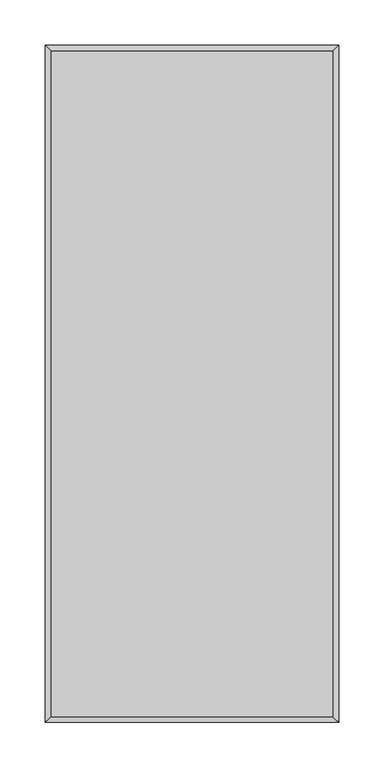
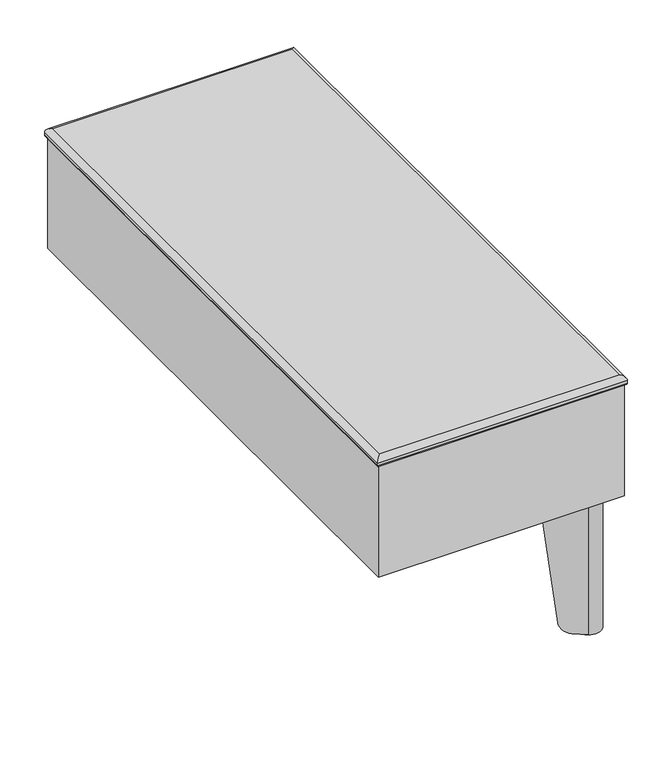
"""IFC4 building model written with IfcOpenShell, lengths in millimetres: furniture geometry, Stance_HC-Flora-Table_Straight : FAT132914E-S."""

from ifc_helpers import new_model, si_unit, point, frame, frame_2d, origin, origin_with_axes, place, context, project, spatial, polyline, circle_curve, ellipse_curve, trimmed, segment, composite_curve, outline, extrude, source, transform, mapped, element, save
from ifc_brep_helpers import plane_surface, cylinder_surface, revolved_surface, advanced_brep


def furniture_b870da70(model_context):
    return source(origin(), model_context, "Body", "SolidModel", [
        advanced_brep(
        [(274.3401042, -102.8613619, 193.6877233), (306.2642107, -57.26919, 193.6877233), (285.6391871, -36.6441664, 193.6877233), (240.0470178, -68.568271, 193.6877233), (241.8906556, -71.2012484, 193.6877233), (287.4828248, -39.2771437, 193.6877233), (303.6312333, -55.4255523, 193.6877233), (271.7071268, -101.0177242, 193.6877233), (274.3401042, -102.8613619, 189.1419595), (303.6312333, -55.4255523, 3.1876992), (293.5105238, -69.8793673, 3.1876992), (284.3334277, -82.9855678, 17.1280233), (287.4828248, -39.2771437, 3.1876992), (259.9228092, -58.5749494, 17.1280233), (273.0290098, -49.3978533, 3.1876992), (240.0470178, -68.568271, 189.1419334), (285.6391871, -36.6441664, 3.1876992), (270.7211121, -47.0899556, 3.1876992), (257.6149115, -56.2670517, 17.1280233), (306.2642107, -57.26919, 3.1876992), (286.6413254, -85.2934656, 17.1280233), (295.8184215, -72.187265, 3.1876992)],
        [
            (0, 1),
            (1, 2, circle_curve(frame((294.1333442, -48.7750329, 193.6877233), z_axis=(0.0, 0.0, 1.0), x_axis=(-1.0, 0.0, 0.0)), 14.8090724)),
            (2, 3),
            (3, 4),
            (4, 5),
            (5, 6, circle_curve(frame((294.1333442, -48.7750329, 193.6877233), z_axis=(0.0, 0.0, -1.0), x_axis=(-1.0, 0.0, 0.0)), 11.5947965)),
            (6, 7),
            (7, 0),
            (7, 8),
            (8, 0),
            (6, 9),
            (9, 10),
            (10, 11, ellipse_curve(frame((293.5105238, -69.8793673, 19.0626992), z_axis=(-0.8191509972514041, 0.5735779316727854, 0.0), x_axis=(-0.5735779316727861, -0.8191509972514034, 0.0)), 16.1198923, 15.875)),
            (11, 7),
            (5, 12),
            (12, 9, circle_curve(frame((294.1333442, -48.7750329, 3.1876992), z_axis=(0.0, 0.0, -1.0), x_axis=(-1.0, 0.0, 0.0)), 11.5947965)),
            (4, 13),
            (13, 14, ellipse_curve(frame((273.0290098, -49.3978533, 19.0626992), z_axis=(0.5735779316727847, -0.8191509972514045, 0.0), x_axis=(0.8191509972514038, 0.5735779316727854, 0.0)), 16.1198923, 15.875)),
            (14, 12),
            (3, 15),
            (15, 4),
            (2, 16),
            (16, 17),
            (17, 18, ellipse_curve(frame((270.7211121, -47.0899556, 19.0626992), z_axis=(-0.5735779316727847, 0.8191509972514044, 0.0), x_axis=(0.8191509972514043, 0.573577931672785, 0.0)), 16.1198923, 15.875)),
            (18, 15),
            (1, 19),
            (19, 16, circle_curve(frame((294.1333442, -48.7750329, 3.1876992), z_axis=(0.0, 0.0, 1.0), x_axis=(-1.0, 0.0, 0.0)), 14.8090724)),
            (8, 20),
            (20, 21, ellipse_curve(frame((295.8184215, -72.187265, 19.0626992), z_axis=(0.8191509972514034, -0.5735779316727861, 0.0), x_axis=(-0.5735779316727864, -0.8191509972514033, 0.0)), 16.1198923, 15.875)),
            (21, 19),
            (18, 13),
            (11, 20),
            (21, 10),
            (14, 17),
        ],
        [
            plane_surface(frame((271.7071268, -101.0177242, 193.6877233), z_axis=(0.0, 0.0, 1.0000000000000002), x_axis=(-0.8191509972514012, 0.5735779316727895, 0.0))),
            plane_surface(frame((274.3401042, -102.8613619, 193.6877233), z_axis=(-0.5735779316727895, -0.8191509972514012, 0.0), x_axis=(0.0, 0.0, -1.0))),
            plane_surface(frame((271.7071268, -101.0177242, 193.6877233), z_axis=(-0.8191509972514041, 0.5735779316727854, 0.0), x_axis=(0.0, 0.0, -1.0))),
            revolved_surface(polyline([(282.53854770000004, -48.7750329, 3.1876992), (282.53854770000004, -48.7750329, 193.6877233)]), (294.1333442, -48.7750329, 0.0), (0.0, 0.0, -1.0)),
            plane_surface(frame((287.4828248, -39.2771437, 193.6877233), z_axis=(0.5735779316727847, -0.8191509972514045, 0.0), x_axis=(0.0, 0.0, -1.0))),
            plane_surface(frame((241.8906556, -71.2012484, 193.6877233), z_axis=(-0.8191509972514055, -0.5735779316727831, 0.0), x_axis=(0.0, 0.0, -1.0))),
            plane_surface(frame((240.0470178, -68.568271, 193.6877233), z_axis=(-0.5735779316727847, 0.8191509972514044, 0.0), x_axis=(0.0, 0.0, -1.0))),
            cylinder_surface(frame((294.1333442, -48.7750329, 0.0), z_axis=(0.0, 0.0, 1.0), x_axis=(-1.0, 0.0, 0.0)), 14.8090724),
            plane_surface(frame((306.2642107, -57.26919, 193.6877233), z_axis=(0.8191509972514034, -0.5735779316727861, 0.0), x_axis=(0.0, 0.0, -1.0))),
            plane_surface(frame((251.7311084, -50.3832485, 17.1280233), z_axis=(-0.7018361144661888, -0.7018361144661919, -0.12186934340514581), x_axis=(0.7071067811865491, -0.707106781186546, 0.0))),
            plane_surface(frame((284.2214639, -17.8928931, 3.1876992), z_axis=(0.0, 0.0, -1.0), x_axis=(0.707106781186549, -0.707106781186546, 0.0))),
            cylinder_surface(frame((303.6583998, -80.0272433, 19.0626992), z_axis=(0.7071067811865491, -0.707106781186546, 0.0), x_axis=(-0.707106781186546, -0.7071067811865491, 0.0)), 15.875),
        ],
        [
            (0, [[1, 2, 3, 4, 5, 6, 7, 8]]),
            (1, [[9, 10, -8]]),
            (2, [[11, 12, 13, 14, -7]]),
            (3, [[15, 16, -11, -6]]),
            (4, [[17, 18, 19, -15, -5]]),
            (5, [[20, 21, -4]]),
            (6, [[22, 23, 24, 25, -20, -3]]),
            (7, [[26, 27, -22, -2]]),
            (8, [[-10, 28, 29, 30, -26, -1]]),
            (9, [[-17, -21, -25, 31]]),
            (9, [[-28, -9, -14, 32]]),
            (10, [[-23, -27, -30, 33, -12, -16, -19, 34]]),
            (11, [[-13, -33, -29, -32]]),
            (11, [[-24, -34, -18, -31]]),
        ],
    ),
        extrude(outline(composite_curve([segment(trimmed(circle_curve(frame_2d((292.1, -50.8)), 11.1125), [point((303.2125, -50.8))], [point((280.9875, -50.8))], False, "CARTESIAN"), True, "CONTINUOUS"), segment(trimmed(circle_curve(frame_2d((292.1, -50.8)), 11.1125), [point((280.9875, -50.8))], [point((303.2125, -50.8))], False, "CARTESIAN"), True, "CONTINUOUS")], self_intersect=False)), origin_with_axes(), (0.0, 0.0, 1.0), 3.175),
        extrude(outline(composite_curve([segment(trimmed(circle_curve(frame_2d((295.4524523, -47.4559239)), 15.8749964), [point((294.3450687, -31.6195983))], [point((311.288778, -48.5633073))], False, "CARTESIAN"), True, "CONTINUOUS"), segment(polyline([(311.288778, -48.5633073), (304.2918062, -148.6247029), (274.4414324, -178.4750713), (190.4983323, -152.4100523), (164.4332978, -68.4669439), (194.2836699, -38.6165718), (294.3450687, -31.6195983)]), True, "CONTINUOUS")], self_intersect=False)), frame((0.0, 0.0, 193.6877233), z_axis=(0.0, 0.0, 1.0), x_axis=(1.0, 0.0, 0.0)), (0.0, 0.0, 1.0), 4.7751809),
        advanced_brep(
        [(274.3401042, -659.1386381, 193.6877233), (271.7071268, -660.9822758, 193.6877233), (303.6312333, -706.5744477, 193.6877233), (287.4828248, -722.7228563, 193.6877233), (241.8906556, -690.7987516, 193.6877233), (240.0470178, -693.431729, 193.6877233), (285.6391871, -725.3558336, 193.6877233), (306.2642107, -704.73081, 193.6877233), (274.3401042, -659.1386381, 189.1419595), (284.3334277, -679.0144322, 17.1280233), (293.5105238, -692.1206327, 3.1876992), (303.6312333, -706.5744477, 3.1876992), (287.4828248, -722.7228563, 3.1876992), (273.0290098, -712.6021467, 3.1876992), (259.9228092, -703.4250506, 17.1280233), (240.0470178, -693.431729, 189.1419334), (257.6149115, -705.7329483, 17.1280233), (270.7211121, -714.9100444, 3.1876992), (285.6391871, -725.3558336, 3.1876992), (306.2642107, -704.73081, 3.1876992), (295.8184215, -689.812735, 3.1876992), (286.6413254, -676.7065344, 17.1280233)],
        [
            (0, 1),
            (1, 2),
            (2, 3, circle_curve(frame((294.1333442, -713.2249671, 193.6877233), z_axis=(0.0, 0.0, -1.0), x_axis=(-1.0, 0.0, 0.0)), 11.5947965)),
            (3, 4),
            (4, 5),
            (5, 6),
            (6, 7, circle_curve(frame((294.1333442, -713.2249671, 193.6877233), z_axis=(0.0, 0.0, 1.0), x_axis=(-1.0, 0.0, 0.0)), 14.8090724)),
            (7, 0),
            (0, 8),
            (8, 1),
            (1, 9),
            (9, 10, ellipse_curve(frame((293.5105238, -692.1206327, 19.0626992), z_axis=(-0.8191509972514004, -0.5735779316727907, 0.0), x_axis=(-0.5735779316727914, 0.8191509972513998, 0.0)), 16.1198923, 15.875)),
            (10, 11),
            (11, 2),
            (11, 12, circle_curve(frame((294.1333442, -713.2249671, 3.1876992), z_axis=(0.0, 0.0, -1.0), x_axis=(-1.0, 0.0, 0.0)), 11.5947965)),
            (12, 3),
            (12, 13),
            (13, 14, ellipse_curve(frame((273.0290098, -712.6021467, 19.0626992), z_axis=(0.5735779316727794, 0.8191509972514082, 0.0), x_axis=(0.8191509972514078, -0.5735779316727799, 0.0)), 16.1198923, 15.875)),
            (14, 4),
            (4, 15),
            (15, 5),
            (15, 16),
            (16, 17, ellipse_curve(frame((270.7211121, -714.9100444, 19.0626992), z_axis=(-0.5735779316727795, -0.8191509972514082, 0.0), x_axis=(0.8191509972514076, -0.5735779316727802, 0.0)), 16.1198923, 15.875)),
            (17, 18),
            (18, 6),
            (18, 19, circle_curve(frame((294.1333442, -713.2249671, 3.1876992), z_axis=(0.0, 0.0, 1.0), x_axis=(-1.0, 0.0, 0.0)), 14.8090724)),
            (19, 7),
            (19, 20),
            (20, 21, ellipse_curve(frame((295.8184215, -689.812735, 19.0626992), z_axis=(0.8191509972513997, 0.5735779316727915, 0.0), x_axis=(-0.573577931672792, 0.8191509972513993, 0.0)), 16.1198923, 15.875)),
            (21, 8),
            (14, 16),
            (21, 9),
            (17, 13),
            (10, 20),
        ],
        [
            plane_surface(frame((271.7071268, -660.9822758, 193.6877233), z_axis=(0.0, 0.0, 0.9999999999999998), x_axis=(-0.8191509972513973, -0.5735779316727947, 0.0))),
            plane_surface(frame((274.3401042, -659.1386381, 193.6877233), z_axis=(-0.5735779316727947, 0.8191509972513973, 0.0), x_axis=(0.0, 0.0, -1.0))),
            plane_surface(frame((271.7071268, -660.9822758, 193.6877233), z_axis=(-0.8191509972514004, -0.5735779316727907, 0.0), x_axis=(0.0, 0.0, -1.0))),
            revolved_surface(polyline([(282.53854770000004, -713.2249671, 3.1876992), (282.53854770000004, -713.2249671, 193.6877233)]), (294.1333442, -713.2249671, 0.0), (0.0, 0.0, -1.0)),
            plane_surface(frame((287.4828248, -722.7228563, 193.6877233), z_axis=(0.5735779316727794, 0.8191509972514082, 0.0), x_axis=(0.0, 0.0, -1.0))),
            plane_surface(frame((241.8906556, -690.7987516, 193.6877233), z_axis=(-0.8191509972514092, 0.5735779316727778, 0.0), x_axis=(0.0, 0.0, -1.0))),
            plane_surface(frame((240.0470178, -693.431729, 193.6877233), z_axis=(-0.5735779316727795, -0.8191509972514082, 0.0), x_axis=(0.0, 0.0, -1.0))),
            cylinder_surface(frame((294.1333442, -713.2249671, 0.0), z_axis=(0.0, 0.0, 1.0), x_axis=(-1.0, 0.0, 0.0)), 14.8090724),
            plane_surface(frame((306.2642107, -704.73081, 193.6877233), z_axis=(0.8191509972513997, 0.5735779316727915, 0.0), x_axis=(0.0, 0.0, -1.0))),
            plane_surface(frame((251.7311084, -711.6167515, 17.1280233), z_axis=(-0.7018361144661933, 0.7018361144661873, -0.12186934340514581), x_axis=(0.7071067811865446, 0.7071067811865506, 0.0))),
            plane_surface(frame((284.2214639, -744.1071069, 3.1876992), z_axis=(0.0, 0.0, -1.0), x_axis=(0.7071067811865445, 0.7071067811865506, 0.0))),
            cylinder_surface(frame((303.6583998, -681.9727567, 19.0626992), z_axis=(0.7071067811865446, 0.7071067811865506, 0.0), x_axis=(-0.7071067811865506, 0.7071067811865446, 0.0)), 15.875),
        ],
        [
            (0, [[1, 2, 3, 4, 5, 6, 7, 8]]),
            (1, [[-1, 9, 10]]),
            (2, [[-2, 11, 12, 13, 14]]),
            (3, [[-3, -14, 15, 16]]),
            (4, [[-4, -16, 17, 18, 19]]),
            (5, [[-5, 20, 21]]),
            (6, [[-6, -21, 22, 23, 24, 25]]),
            (7, [[-7, -25, 26, 27]]),
            (8, [[-8, -27, 28, 29, 30, -9]]),
            (9, [[31, -22, -20, -19]]),
            (9, [[32, -11, -10, -30]]),
            (10, [[33, -17, -15, -13, 34, -28, -26, -24]]),
            (11, [[-31, -18, -33, -23]]),
            (11, [[-32, -29, -34, -12]]),
        ],
    ),
        extrude(outline(composite_curve([segment(trimmed(circle_curve(frame_2d((292.1, -711.2)), 11.1125), [point((303.2125, -711.2))], [point((280.9875, -711.2))], False, "CARTESIAN"), True, "CONTINUOUS"), segment(trimmed(circle_curve(frame_2d((292.1, -711.2)), 11.1125), [point((280.9875, -711.2))], [point((303.2125, -711.2))], False, "CARTESIAN"), True, "CONTINUOUS")], self_intersect=False)), origin_with_axes(), (0.0, 0.0, 1.0), 3.175),
        extrude(outline(composite_curve([segment(polyline([(294.3450687, -730.3804017), (194.2836699, -723.3834282), (164.4332978, -693.5330561), (190.4983323, -609.5899477), (274.4414324, -583.5249287), (304.2918062, -613.3752971), (311.288778, -713.4366927)]), True, "CONTINUOUS"), segment(trimmed(circle_curve(frame_2d((295.4524523, -714.5440761)), 15.8749964), [point((311.288778, -713.4366927))], [point((294.3450687, -730.3804017))], False, "CARTESIAN"), True, "CONTINUOUS")], self_intersect=False)), frame((0.0, 0.0, 193.6877233), z_axis=(0.0, 0.0, 1.0), x_axis=(1.0, 0.0, 0.0)), (0.0, 0.0, 1.0), 4.7751809),
        advanced_brep(
        [(313.5376045, -746.9251045, 361.2210174), (313.5376045, -15.0748955, 361.2210174), (3.9623955, -15.0748955, 361.2210174), (3.9623955, -746.9251045, 361.2210174), (318.087372, -10.525128, 349.249991), (318.087372, -751.474872, 349.249991), (-0.587372, -751.474872, 349.249991), (-0.587372, -10.525128, 349.249991), (319.8876045, -8.7248955, 354.888882), (319.8876045, -753.2751045, 354.888882), (319.8876045, -753.2751045, 350.9190376), (319.8876045, -8.7248955, 350.9190376), (-2.3876045, -753.2751045, 354.888882), (-2.3876045, -753.2751045, 350.9190376), (-2.3876045, -8.7248955, 354.888882), (-2.3876045, -8.7248955, 350.9190376)],
        [
            (0, 1),
            (1, 2),
            (2, 3),
            (3, 0),
            (4, 5),
            (5, 6),
            (6, 7),
            (7, 4),
            (8, 1, ellipse_curve(frame((313.5376045, -15.0748955, 354.8709922), z_axis=(0.7071067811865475, -0.7071067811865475, 0.0), x_axis=(0.7071067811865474, 0.7071067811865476, 0.0)), 8.9802918, 6.3500252)),
            (0, 9, ellipse_curve(frame((313.5376045, -746.9251045, 354.8709922), z_axis=(0.7071067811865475, 0.7071067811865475, 0.0), x_axis=(-0.7071067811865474, 0.7071067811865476, 0.0)), 8.9802918, 6.3500252)),
            (9, 8),
            (9, 10),
            (10, 11),
            (11, 8),
            (10, 5, ellipse_curve(frame((318.2137781, -751.6012781, 350.9190376), z_axis=(0.7071067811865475, 0.7071067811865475, 0.0), x_axis=(-0.7071067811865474, 0.7071067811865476, 0.0)), 2.3671481, 1.6738265)),
            (4, 11, ellipse_curve(frame((318.2137781, -10.3987219, 350.9190376), z_axis=(0.7071067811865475, -0.7071067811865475, 0.0), x_axis=(0.7071067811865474, 0.7071067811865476, 0.0)), 2.3671481, 1.6738265)),
            (3, 12, ellipse_curve(frame((3.9623955, -746.9251045, 354.8709922), z_axis=(0.7071067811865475, -0.7071067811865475, 0.0), x_axis=(0.7071067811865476, 0.7071067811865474, 0.0)), 8.9802918, 6.3500252)),
            (12, 9),
            (12, 13),
            (13, 10),
            (13, 6, ellipse_curve(frame((-0.7137781, -751.6012781, 350.9190376), z_axis=(0.7071067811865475, -0.7071067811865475, 0.0), x_axis=(0.7071067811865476, 0.7071067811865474, 0.0)), 2.3671481, 1.6738265)),
            (2, 14, ellipse_curve(frame((3.9623955, -15.0748955, 354.8709922), z_axis=(-0.7071067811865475, -0.7071067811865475, 0.0), x_axis=(0.7071067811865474, -0.7071067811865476, 0.0)), 8.9802918, 6.3500252)),
            (14, 12),
            (14, 15),
            (15, 13),
            (15, 7, ellipse_curve(frame((-0.7137781, -10.3987219, 350.9190376), z_axis=(-0.7071067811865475, -0.7071067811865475, 0.0), x_axis=(0.7071067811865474, -0.7071067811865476, 0.0)), 2.3671481, 1.6738265)),
            (8, 14),
            (11, 15),
        ],
        [
            plane_surface(frame((3.9623955, -15.0748955, 361.2210174), z_axis=(0.0, 0.0, 1.0), x_axis=(0.0, -1.0, 0.0))),
            plane_surface(frame((3.9623955, -15.0748955, 349.249991), z_axis=(0.0, 0.0, -1.0), x_axis=(0.0, 1.0, 0.0))),
            cylinder_surface(frame((313.5376045, -11.1125, 354.8709922), z_axis=(0.0, 1.0, 0.0), x_axis=(1.0, 0.0, 0.0)), 6.3500252),
            plane_surface(frame((319.8876045, -8.7248955, 354.888882), z_axis=(1.0, 0.0, 0.0), x_axis=(0.0, -1.0, 0.0))),
            cylinder_surface(frame((318.2137781, -11.1125, 350.9190376), z_axis=(0.0, 1.0, 0.0), x_axis=(1.0, 0.0, 0.0)), 1.6738265),
            cylinder_surface(frame((317.5, -746.9251045, 354.8709922), z_axis=(1.0, 0.0, 0.0), x_axis=(0.0, -1.0, 0.0)), 6.3500252),
            plane_surface(frame((319.8876045, -753.2751045, 354.888882), z_axis=(0.0, -1.0, 0.0), x_axis=(-1.0, 0.0, 0.0))),
            cylinder_surface(frame((317.5, -751.6012781, 350.9190376), z_axis=(1.0, 0.0, 0.0), x_axis=(0.0, -1.0, 0.0)), 1.6738265),
            cylinder_surface(frame((3.9623955, -750.8875, 354.8709922), z_axis=(0.0, -1.0, 0.0), x_axis=(-1.0, 0.0, 0.0)), 6.3500252),
            plane_surface(frame((-2.3876045, -753.2751045, 354.888882), z_axis=(-1.0, 0.0, 0.0), x_axis=(0.0, 1.0, 0.0))),
            cylinder_surface(frame((-0.7137781, -750.8875, 350.9190376), z_axis=(0.0, -1.0, 0.0), x_axis=(-1.0, 0.0, 0.0)), 1.6738265),
            cylinder_surface(frame((0.0, -15.0748955, 354.8709922), z_axis=(-1.0, 0.0, 0.0), x_axis=(0.0, 1.0, 0.0)), 6.3500252),
            plane_surface(frame((-2.3876045, -8.7248955, 354.888882), z_axis=(0.0, 1.0, 0.0), x_axis=(1.0, 0.0, 0.0))),
            cylinder_surface(frame((0.0, -10.3987219, 350.9190376), z_axis=(-1.0, 0.0, 0.0), x_axis=(0.0, 1.0, 0.0)), 1.6738265),
        ],
        [
            (0, [[1, 2, 3, 4]]),
            (1, [[5, 6, 7, 8]]),
            (2, [[9, -1, 10, 11]]),
            (3, [[-11, 12, 13, 14]]),
            (4, [[-13, 15, -5, 16]]),
            (5, [[-10, -4, 17, 18]]),
            (6, [[-12, -18, 19, 20]]),
            (7, [[-15, -20, 21, -6]]),
            (8, [[-17, -3, 22, 23]]),
            (9, [[-19, -23, 24, 25]]),
            (10, [[-21, -25, 26, -7]]),
            (11, [[-9, 27, -22, -2]]),
            (12, [[-14, 28, -24, -27]]),
            (13, [[-16, -8, -26, -28]]),
        ],
    ),
        extrude(outline(polyline([(317.5, -11.1125), (317.5, -750.8875), (0.0, -750.8875), (0.0, -11.1125), (317.5, -11.1125)])), frame((0.0, 0.0, 196.85), z_axis=(0.0, 0.0, 1.0), x_axis=(1.0, 0.0, 0.0)), (0.0, 0.0, 1.0), 152.399991),
    ])


if __name__ == "__main__":
    model = new_model("IFC4")
    model_context = context("Model", 3, world=origin())
    ifc_project = project(units=[si_unit("LENGTHUNIT", "METRE", prefix="MILLI")], contexts=[model_context])
    site = spatial("IfcSite", under=ifc_project)
    building = spatial("IfcBuilding", under=site)
    placement = place(None, origin())
    furniture_shape = furniture_b870da70(model_context)
    element("IfcFurniture", 1, ObjectType="Stance_HC-Flora-Table_Straight : FAT132914E-S", at=placement, inside=building, context=model_context, shape_type="MappedRepresentation", body=[
        mapped(furniture_shape, transform((0.0, 0.0, 0.0), x_axis=(1.0, 0.0, 0.0), y_axis=(0.0, 1.0, 0.0), z_axis=(0.0, 0.0, 1.0))),
    ])
    save(model, "model.ifc")
